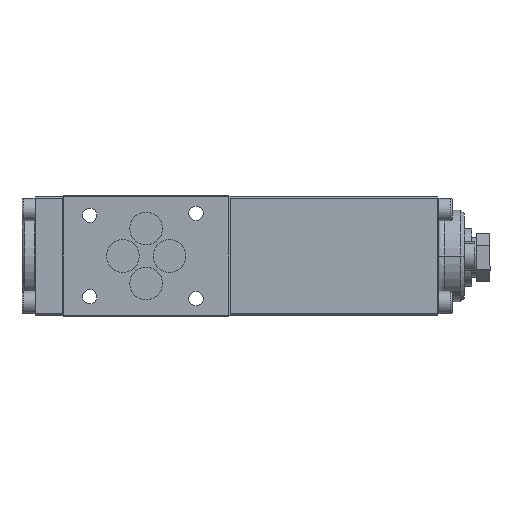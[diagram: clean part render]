
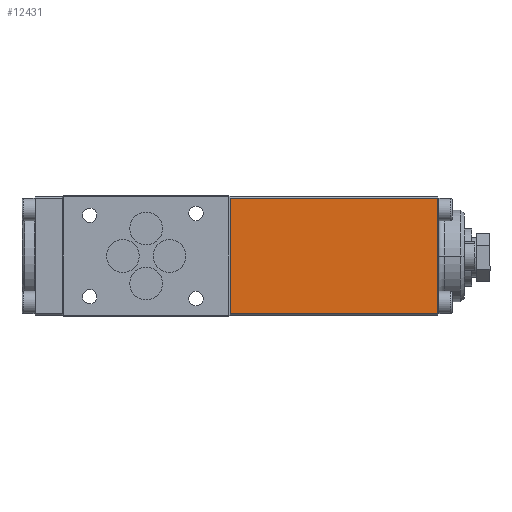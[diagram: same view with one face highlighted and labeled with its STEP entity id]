
A CAD part, front view. The second image highlights one B-rep face of the part: STEP entity #12431.
In plain terms, the highlighted planar face has unit normal (0, -1, 0).
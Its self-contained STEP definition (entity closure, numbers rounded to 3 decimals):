
#651 = CARTESIAN_POINT ( 'NONE',  ( 64., -22.5, -22. ) ) ;
#931 = FACE_OUTER_BOUND ( 'NONE', #5172, .T. ) ;
#3121 = PLANE ( 'NONE',  #16119 ) ;
#3463 = EDGE_CURVE ( 'NONE', #8713, #20948, #14821, .T. ) ;
#4057 = EDGE_CURVE ( 'NONE', #13504, #14743, #13005, .T. ) ;
#4548 = DIRECTION ( 'NONE',  ( 0., 0., 1. ) ) ;
#5172 = EDGE_LOOP ( 'NONE', ( #19307, #7839, #19908, #5444 ) ) ;
#5311 = EDGE_CURVE ( 'NONE', #14743, #8713, #12203, .T. ) ;
#5444 = ORIENTED_EDGE ( 'NONE', *, *, #3463, .T. ) ;
#5586 = CARTESIAN_POINT ( 'NONE',  ( 89., -22.5, 22. ) ) ;
#6661 = CARTESIAN_POINT ( 'NONE',  ( 64., -22.5, 22.5 ) ) ;
#7140 = DIRECTION ( 'NONE',  ( 1., 0., 0. ) ) ;
#7839 = ORIENTED_EDGE ( 'NONE', *, *, #4057, .T. ) ;
#8201 = DIRECTION ( 'NONE',  ( 0., 0., 1. ) ) ;
#8520 = CARTESIAN_POINT ( 'NONE',  ( 143., -22.5, 22.5 ) ) ;
#8713 = VERTEX_POINT ( 'NONE', #15985 ) ;
#9691 = CARTESIAN_POINT ( 'NONE',  ( 89., -22.5, 22.5 ) ) ;
#10458 = LINE ( 'NONE', #15316, #10776 ) ;
#10486 = DIRECTION ( 'NONE',  ( -1., 0., 0. ) ) ;
#10776 = VECTOR ( 'NONE', #7140, 1000. ) ;
#11696 = DIRECTION ( 'NONE',  ( 0., 0., -1. ) ) ;
#11723 = VECTOR ( 'NONE', #8201, 1000. ) ;
#12203 = LINE ( 'NONE', #5586, #20769 ) ;
#12431 = ADVANCED_FACE ( 'NONE', ( #931 ), #3121, .F. ) ;
#13005 = LINE ( 'NONE', #8520, #11723 ) ;
#13504 = VERTEX_POINT ( 'NONE', #18467 ) ;
#14340 = CARTESIAN_POINT ( 'NONE',  ( 143., -22.5, 22. ) ) ;
#14743 = VERTEX_POINT ( 'NONE', #14340 ) ;
#14821 = LINE ( 'NONE', #6661, #18280 ) ;
#14967 = EDGE_CURVE ( 'NONE', #20948, #13504, #10458, .T. ) ;
#15316 = CARTESIAN_POINT ( 'NONE',  ( 89., -22.5, -22. ) ) ;
#15820 = DIRECTION ( 'NONE',  ( 0., 1., 0. ) ) ;
#15985 = CARTESIAN_POINT ( 'NONE',  ( 64., -22.5, 22. ) ) ;
#16119 = AXIS2_PLACEMENT_3D ( 'NONE', #9691, #15820, #4548 ) ;
#18280 = VECTOR ( 'NONE', #11696, 1000. ) ;
#18467 = CARTESIAN_POINT ( 'NONE',  ( 143., -22.5, -22. ) ) ;
#19307 = ORIENTED_EDGE ( 'NONE', *, *, #14967, .T. ) ;
#19908 = ORIENTED_EDGE ( 'NONE', *, *, #5311, .T. ) ;
#20769 = VECTOR ( 'NONE', #10486, 1000. ) ;
#20948 = VERTEX_POINT ( 'NONE', #651 ) ;
